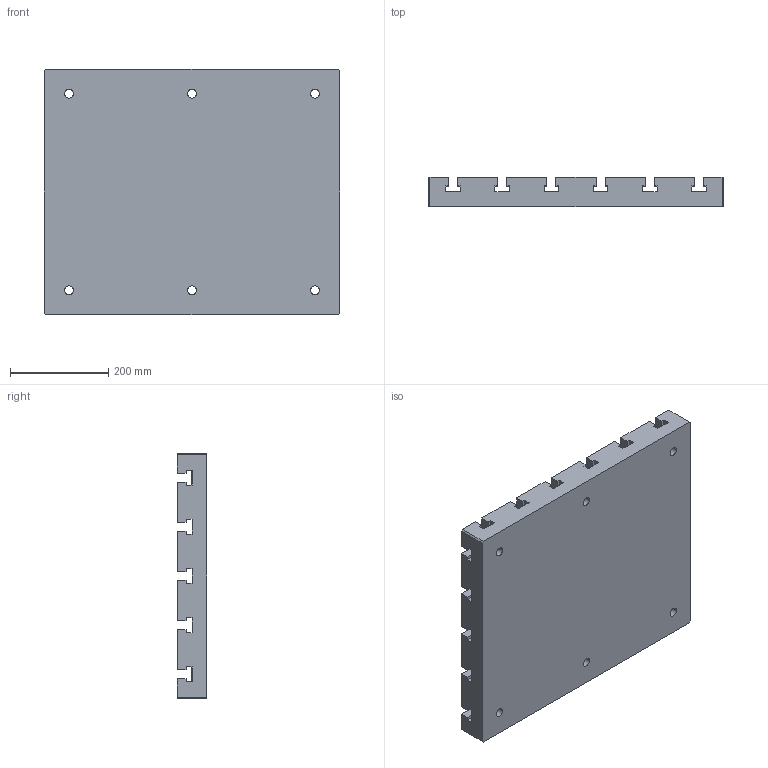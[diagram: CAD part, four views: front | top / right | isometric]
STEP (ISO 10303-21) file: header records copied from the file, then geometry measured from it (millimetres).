
FILE_DESCRIPTION((''),'2;1');
FILE_NAME('FG_WH_BASPL_RCT18NP002','2026-05-17T11:27:59',('Admin'),(''),'CREO PARAMETRIC BY PTC INC, 2025010','CREO PARAMETRIC BY PTC INC, 2025010','');
FILE_SCHEMA(('CONFIG_CONTROL_DESIGN'));
Length unit declared in the file: millimetre
Products named in the file (1): FG_WH_BASPL_RCT18NP002
Bounding box: 600 x 60 x 500 mm (x, y, z)
Volume: 14323589.9 mm3; surface area: 1112541.5 mm2
Topology: 1 solids, 1 shells, 432 faces, 1152 edges, 768 vertices
Faces by surface type: plane 388, cylinder 44
Entity records: 13306 total; most frequent: CARTESIAN_POINT 2352, ORIENTED_EDGE 2304, DIRECTION 2104, EDGE_CURVE 1152, VECTOR 1064, LINE 1064, VERTEX_POINT 768, AXIS2_PLACEMENT_3D 520
